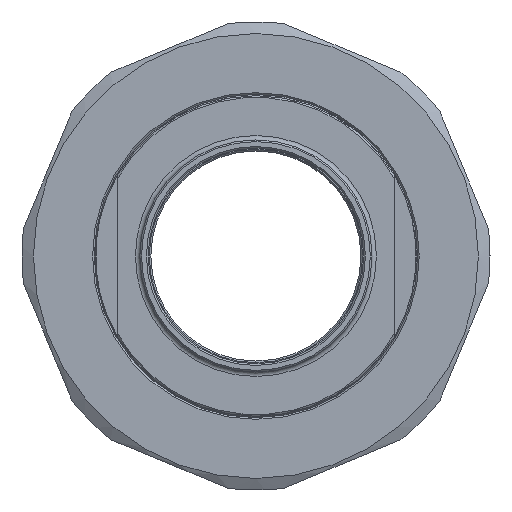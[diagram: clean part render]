
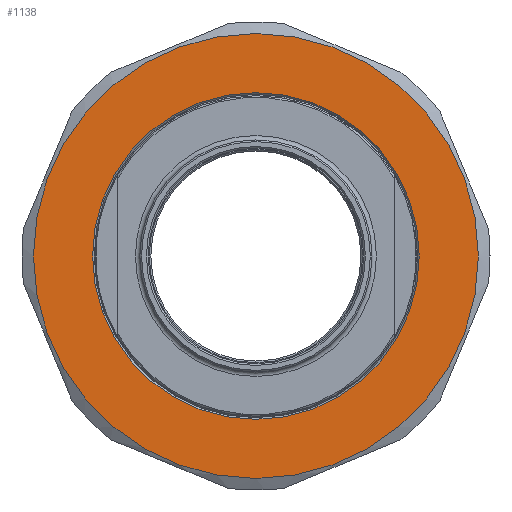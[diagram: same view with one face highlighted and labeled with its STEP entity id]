
A CAD part, left-side view. The second image highlights one B-rep face of the part: STEP entity #1138.
In plain terms, the highlighted planar face has unit normal (-1, 0, 0).
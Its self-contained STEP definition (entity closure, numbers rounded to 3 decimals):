
#36=FACE_BOUND('',#213,.T.);
#100=PLANE('',#1309);
#142=FACE_OUTER_BOUND('',#212,.T.);
#212=EDGE_LOOP('',(#874));
#213=EDGE_LOOP('',(#875));
#404=CIRCLE('',#1289,40.25);
#414=CIRCLE('',#1308,29.55);
#510=VERTEX_POINT('',#1944);
#519=VERTEX_POINT('',#1976);
#641=EDGE_CURVE('',#510,#510,#404,.T.);
#654=EDGE_CURVE('',#519,#519,#414,.T.);
#874=ORIENTED_EDGE('',*,*,#641,.T.);
#875=ORIENTED_EDGE('',*,*,#654,.F.);
#1138=ADVANCED_FACE('',(#142,#36),#100,.T.);
#1289=AXIS2_PLACEMENT_3D('',#1946,#1505,#1506);
#1308=AXIS2_PLACEMENT_3D('',#1977,#1546,#1547);
#1309=AXIS2_PLACEMENT_3D('',#1979,#1549,#1550);
#1505=DIRECTION('center_axis',(-1.,0.,0.));
#1506=DIRECTION('ref_axis',(0.,1.,0.));
#1546=DIRECTION('center_axis',(-1.,0.,0.));
#1547=DIRECTION('ref_axis',(0.,0.,-1.));
#1549=DIRECTION('center_axis',(-1.,0.,0.));
#1550=DIRECTION('ref_axis',(0.,0.,1.));
#1944=CARTESIAN_POINT('',(-25.,-40.25,0.));
#1946=CARTESIAN_POINT('Origin',(-25.,0.,0.));
#1976=CARTESIAN_POINT('',(-25.,0.,29.55));
#1977=CARTESIAN_POINT('Origin',(-25.,0.,0.));
#1979=CARTESIAN_POINT('Origin',(-25.,0.,0.));
